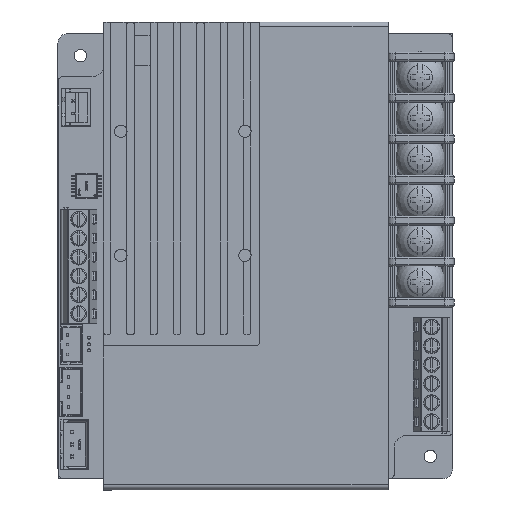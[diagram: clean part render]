
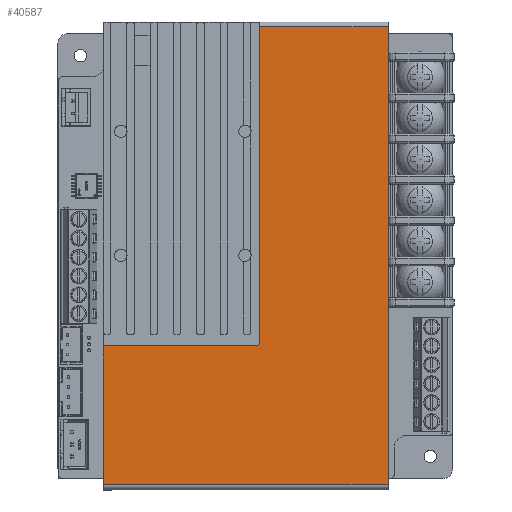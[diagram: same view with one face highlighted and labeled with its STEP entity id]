
A CAD part, top view. The second image highlights one B-rep face of the part: STEP entity #40587.
In plain terms, the highlighted planar face has unit normal (0, 0, 1) as drawn and (0, 1, 0) by its records, which use the part's own axes.
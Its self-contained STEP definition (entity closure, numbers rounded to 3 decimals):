
#6652 = VERTEX_POINT ( 'NONE', #152220 ) ;
#7612 = VERTEX_POINT ( 'NONE', #103627 ) ;
#12907 = CARTESIAN_POINT ( 'NONE',  ( 95., 15.5, 33. ) ) ;
#16907 = VECTOR ( 'NONE', #95339, 1000. ) ;
#16966 = VECTOR ( 'NONE', #106839, 1000. ) ;
#18523 = DIRECTION ( 'NONE',  ( 0., -1., 0. ) ) ;
#18583 = LINE ( 'NONE', #176385, #16966 ) ;
#19013 = LINE ( 'NONE', #70123, #133715 ) ;
#22691 = CARTESIAN_POINT ( 'NONE',  ( 31.74, 15.5, 33. ) ) ;
#26492 = CARTESIAN_POINT ( 'NONE',  ( 30.74, 15.5, 33. ) ) ;
#29916 = ORIENTED_EDGE ( 'NONE', *, *, #31848, .T. ) ;
#31848 = EDGE_CURVE ( 'NONE', #6652, #61797, #18583, .T. ) ;
#32628 = EDGE_CURVE ( 'NONE', #61797, #39514, #96253, .T. ) ;
#37040 = CARTESIAN_POINT ( 'NONE',  ( 30.74, 15.5, 1.5 ) ) ;
#39514 = VERTEX_POINT ( 'NONE', #117327 ) ;
#40587 = ADVANCED_FACE ( 'NONE', ( #87044 ), #109092, .F. ) ;
#56546 = DIRECTION ( 'NONE',  ( 1., 0., 0. ) ) ;
#61797 = VERTEX_POINT ( 'NONE', #37040 ) ;
#70123 = CARTESIAN_POINT ( 'NONE',  ( 95., 15.5, 0. ) ) ;
#75353 = LINE ( 'NONE', #26492, #124958 ) ;
#76827 = VERTEX_POINT ( 'NONE', #22691 ) ;
#76882 = DIRECTION ( 'NONE',  ( 0., -1., 0. ) ) ;
#79055 = CARTESIAN_POINT ( 'NONE',  ( 2.74, 15.5, 58.85 ) ) ;
#83629 = CARTESIAN_POINT ( 'NONE',  ( 96., 15.5, 58.85 ) ) ;
#86545 = ORIENTED_EDGE ( 'NONE', *, *, #150378, .T. ) ;
#87044 = FACE_OUTER_BOUND ( 'NONE', #114795, .T. ) ;
#88209 = DIRECTION ( 'NONE',  ( 0., 0., -1. ) ) ;
#88229 = LINE ( 'NONE', #83629, #124710 ) ;
#95339 = DIRECTION ( 'NONE',  ( 0., 0., 1. ) ) ;
#96253 = LINE ( 'NONE', #200678, #221228 ) ;
#97476 = AXIS2_PLACEMENT_3D ( 'NONE', #217315, #76882, #130143 ) ;
#98516 = CARTESIAN_POINT ( 'NONE',  ( 2.74, 15.5, 58.85 ) ) ;
#101414 = ORIENTED_EDGE ( 'NONE', *, *, #128419, .T. ) ;
#103627 = CARTESIAN_POINT ( 'NONE',  ( 95., 15.5, 58.85 ) ) ;
#106450 = ORIENTED_EDGE ( 'NONE', *, *, #108270, .T. ) ;
#106839 = DIRECTION ( 'NONE',  ( 0., 0., -1. ) ) ;
#108270 = EDGE_CURVE ( 'NONE', #39514, #119696, #113954, .T. ) ;
#109092 = PLANE ( 'NONE',  #132948 ) ;
#113954 = LINE ( 'NONE', #79055, #16907 ) ;
#114795 = EDGE_LOOP ( 'NONE', ( #153382, #106450, #101414, #207407, #164786, #86545, #29916 ) ) ;
#117327 = CARTESIAN_POINT ( 'NONE',  ( 2.74, 15.5, 1.5 ) ) ;
#119696 = VERTEX_POINT ( 'NONE', #98516 ) ;
#124710 = VECTOR ( 'NONE', #56546, 1000. ) ;
#124958 = VECTOR ( 'NONE', #165662, 1000. ) ;
#128419 = EDGE_CURVE ( 'NONE', #119696, #7612, #88229, .T. ) ;
#129883 = DIRECTION ( 'NONE',  ( -1., 0., 0. ) ) ;
#130143 = DIRECTION ( 'NONE',  ( 0., 0., -1. ) ) ;
#132948 = AXIS2_PLACEMENT_3D ( 'NONE', #157779, #18523, #88209 ) ;
#133715 = VECTOR ( 'NONE', #161642, 1000. ) ;
#150378 = EDGE_CURVE ( 'NONE', #76827, #6652, #156706, .T. ) ;
#152220 = CARTESIAN_POINT ( 'NONE',  ( 30.74, 15.5, 32. ) ) ;
#153382 = ORIENTED_EDGE ( 'NONE', *, *, #32628, .T. ) ;
#156706 = CIRCLE ( 'NONE', #97476, 1. ) ;
#157779 = CARTESIAN_POINT ( 'NONE',  ( 0., 15.5, 0. ) ) ;
#161642 = DIRECTION ( 'NONE',  ( 0., 0., -1. ) ) ;
#164786 = ORIENTED_EDGE ( 'NONE', *, *, #178404, .T. ) ;
#165662 = DIRECTION ( 'NONE',  ( -1., 0., 0. ) ) ;
#174084 = EDGE_CURVE ( 'NONE', #7612, #218387, #19013, .T. ) ;
#176385 = CARTESIAN_POINT ( 'NONE',  ( 30.74, 15.5, 1.5 ) ) ;
#178404 = EDGE_CURVE ( 'NONE', #218387, #76827, #75353, .T. ) ;
#200678 = CARTESIAN_POINT ( 'NONE',  ( 1.74, 15.5, 1.5 ) ) ;
#207407 = ORIENTED_EDGE ( 'NONE', *, *, #174084, .T. ) ;
#217315 = CARTESIAN_POINT ( 'NONE',  ( 31.74, 15.5, 32. ) ) ;
#218387 = VERTEX_POINT ( 'NONE', #12907 ) ;
#221228 = VECTOR ( 'NONE', #129883, 1000. ) ;
